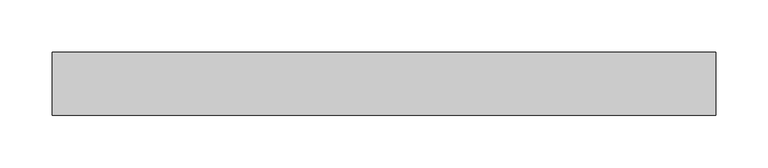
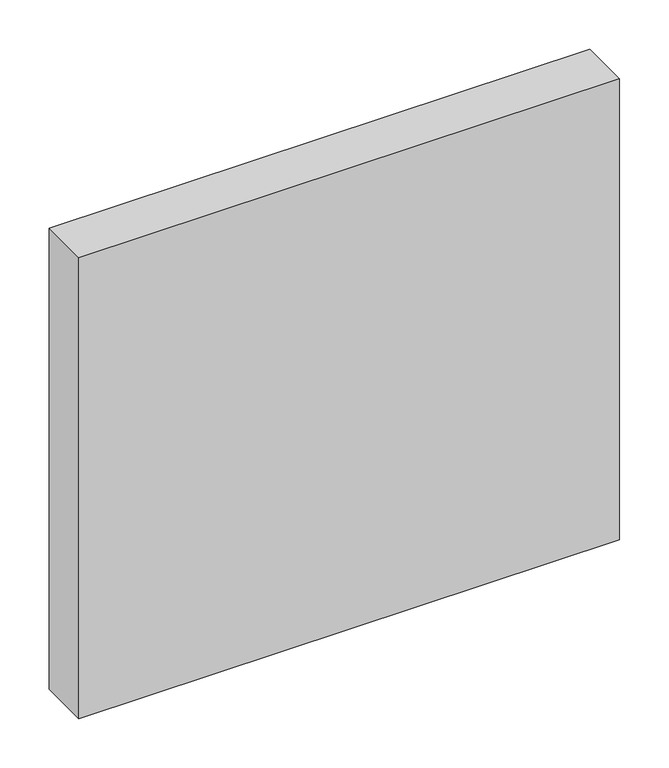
"""IFC4 building model written with IfcOpenShell, lengths in millimetres: plate geometry, Системная панель : Алюкобонд серый."""

from ifc_helpers import new_model, si_unit, origin, origin_with_axes, place, context, project, spatial, polyline, outline, extrude, source, transform, mapped, element, save


def plate_414b0a60(model_context):
    return source(origin(), model_context, "Body", "SweptSolid", [
        extrude(outline(polyline([(316.3614649, -10.5), (-316.3614649, -10.5), (-316.3614649, 49.5), (316.3614649, 49.5), (316.3614649, -10.5)])), origin_with_axes(), (0.0, 0.0, 1.0), 570.0),
    ])


if __name__ == "__main__":
    model = new_model("IFC4")
    model_context = context("Model", 3, world=origin())
    ifc_project = project(units=[si_unit("LENGTHUNIT", "METRE", prefix="MILLI")], contexts=[model_context])
    site = spatial("IfcSite", under=ifc_project)
    building = spatial("IfcBuilding", under=site)
    placement = place(None, origin())
    plate_shape = plate_414b0a60(model_context)
    element("IfcPlate", 1, ObjectType="Системная панель : Алюкобонд серый", at=placement, inside=building, context=model_context, shape_type="MappedRepresentation", body=[
        mapped(plate_shape, transform((0.0, 0.0, 0.0), x_axis=(1.0, 0.0, 0.0), y_axis=(0.0, 1.0, 0.0), z_axis=(0.0, 0.0, 1.0))),
    ])
    save(model, "model.ifc")
